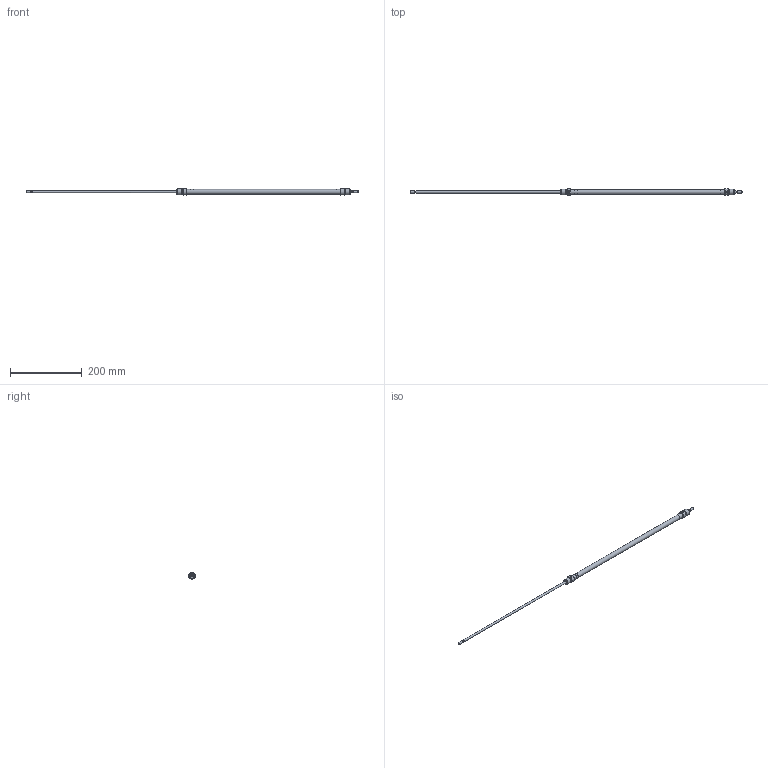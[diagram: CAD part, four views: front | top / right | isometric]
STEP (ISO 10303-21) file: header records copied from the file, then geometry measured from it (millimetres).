
FILE_DESCRIPTION( ( 'STEP AP203' ), '1' );
FILE_NAME( '//expscmdclustefs.cadenas.external/client_exchange/iodir/jobs/output/wkb68411310_no0/STEP/M101-012-0400-M__0__2_03.stp', ' ', ( ' ' ), ( ' ' ), 'PSStep 15.0.47', 'PARTsolutions', ' ' );
FILE_SCHEMA( ( 'CONFIG_CONTROL_DESIGN' ) );
Length unit declared in the file: millimetre
Products named in the file (3): M101-012-0400-M [0]; HI_M101-012-0400-M-[0]-z; HI_M101-012-0400-M-[0]-k
Assembly tree (2 placements, depth 2):
  M101-012-0400-M [0]
    HI_M101-012-0400-M-[0]-z
    HI_M101-012-0400-M-[0]-k
Bounding box: 926 x 18.73 x 17.86 mm (x, y, z)
Volume: 50087.2 mm3; surface area: 56452.3 mm2
Topology: 2 solids, 2 shells, 65 faces, 129 edges, 80 vertices
Faces by surface type: plane 26, cylinder 23, cone 14, torus 2
Full cylindrical faces by diameter (mm): 4.134 x2, 4.773 x2, 6 x6, 12 x2, 13.3 x1, 14.16 x4, 16 x4
Entity records: 1670 total; most frequent: CARTESIAN_POINT 324, DIRECTION 280, ORIENTED_EDGE 184, AXIS2_PLACEMENT_3D 128, EDGE_LOOP 116, EDGE_CURVE 92, FACE_OUTER_BOUND 88, VERTEX_POINT 76
